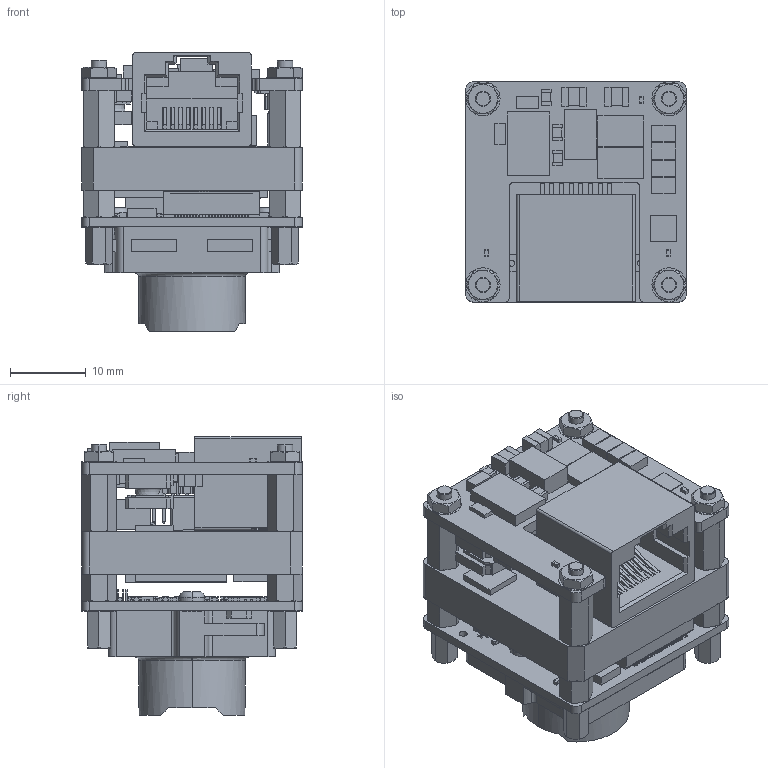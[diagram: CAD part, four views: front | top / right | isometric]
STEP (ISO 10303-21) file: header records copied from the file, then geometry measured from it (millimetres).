
FILE_DESCRIPTION((''),'2;1');
FILE_NAME('MV-CB060-10GM-M','2020-11-16T14:31:25',('gengdawei'),(''),'CREO PARAMETRIC BY PTC INC, 2017260','CREO PARAMETRIC BY PTC INC, 2017260','');
FILE_SCHEMA(('CONFIG_CONTROL_DESIGN'));
Products named in the file (1): MV-CB060-10GM-M
Bounding box: 29.01 x 29.12 x 36.7 mm (x, y, z)
Volume: 12687.9 mm3; surface area: 15758.3 mm2
Topology: 1 solids, 17 shells, 7890 faces, 22396 edges, 14775 vertices
Faces by surface type: plane 5962, cylinder 1616, cone 176, bspline 64, torus 42, sphere 28, revolution 2
Entity records: 260671 total; most frequent: CARTESIAN_POINT 51441, ORIENTED_EDGE 44776, DIRECTION 41023, EDGE_CURVE 22388, VECTOR 18283, LINE 18283, VERTEX_POINT 14775, AXIS2_PLACEMENT_3D 11369
